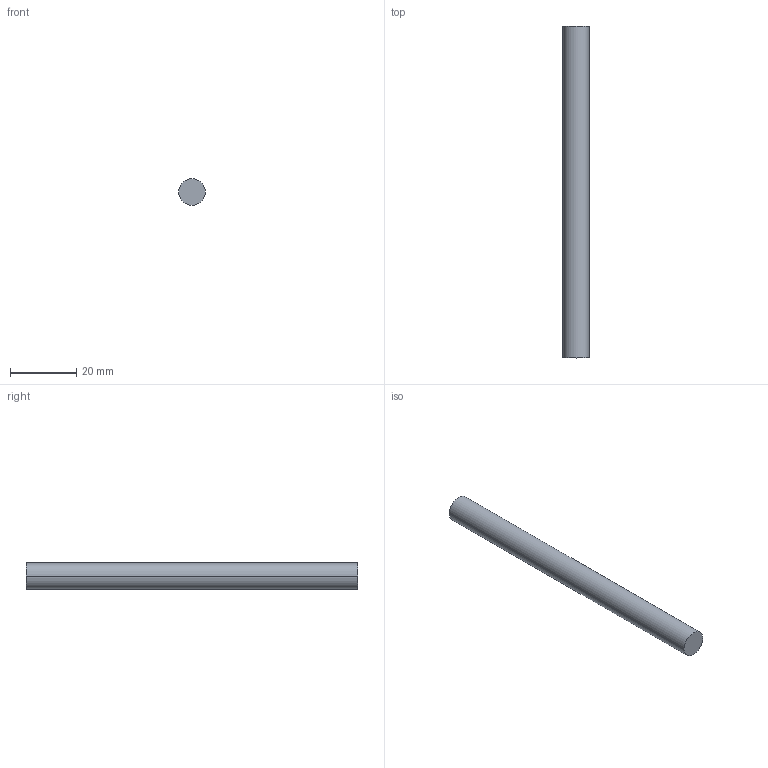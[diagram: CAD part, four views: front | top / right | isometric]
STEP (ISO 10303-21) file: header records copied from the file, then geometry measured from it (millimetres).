
FILE_DESCRIPTION(('CATIA V5 STEP Exchange'),'2;1');
FILE_NAME('C:\Users\user\Documents\Jakob\BAC - Arbeit 1\CAD Modell\CAD-Modell-Step files\linear rod\linear rod.stp','2018-12-13T14:05:33+00:00',('none'),('none'),'Version 5-6 Release 2012','CATIA V5 STEP AP203','none');
FILE_SCHEMA(('CONFIG_CONTROL_DESIGN'));
Length unit declared in the file: millimetre
Products named in the file (1): linear rod
Bounding box: 8 x 100 x 8 mm (x, y, z)
Volume: 5026.5 mm3; surface area: 2613.8 mm2
Topology: 1 solids, 1 shells, 4 faces, 6 edges, 4 vertices
Faces by surface type: cylinder 2, plane 2
Entity records: 127 total; most frequent: CARTESIAN_POINT 14, DIRECTION 12, ORIENTED_EDGE 12, AXIS2_PLACEMENT_3D 8, EDGE_CURVE 6, ADVANCED_FACE 4, CC_DESIGN_PERSON_AND_ORGANIZATION_ASSIGNMENT 4, PERSON_AND_ORGANIZATION_ROLE 4
